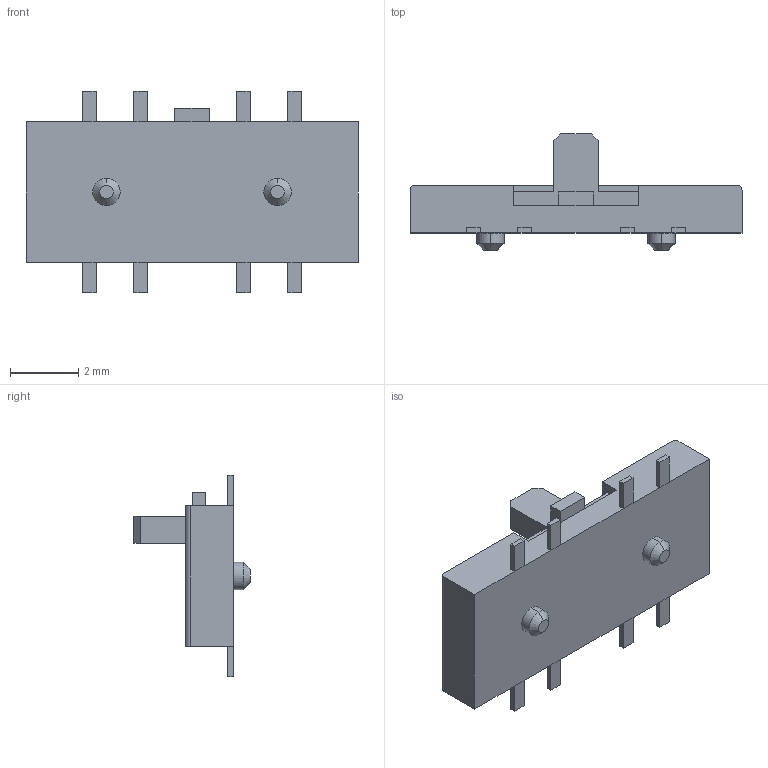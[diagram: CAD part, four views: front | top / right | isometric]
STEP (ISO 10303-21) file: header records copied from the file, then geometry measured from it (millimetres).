
FILE_DESCRIPTION (( 'STEP AP214' ), '1' );
FILE_NAME ('SSSS820301.STEP', '2011-03-29T10:15:51', ( '' ), ( '' ), 'SwSTEP 2.0', 'SolidWorks 2007', '' );
FILE_SCHEMA (( 'AUTOMOTIVE_DESIGN' ));
Length unit declared in the file: millimetre
Products named in the file (1): SSSS820301
Bounding box: 9.7 x 3.4 x 5.9 mm (x, y, z)
Volume: 57.2 mm3; surface area: 136.3 mm2
Topology: 1 solids, 1 shells, 76 faces, 194 edges, 122 vertices
Faces by surface type: plane 66, cylinder 6, cone 4
Entity records: 3097 total; most frequent: CARTESIAN_POINT 393, ORIENTED_EDGE 388, DIRECTION 364, EDGE_CURVE 194, VECTOR 178, LINE 178, VERTEX_POINT 122, AXIS2_PLACEMENT_3D 93
